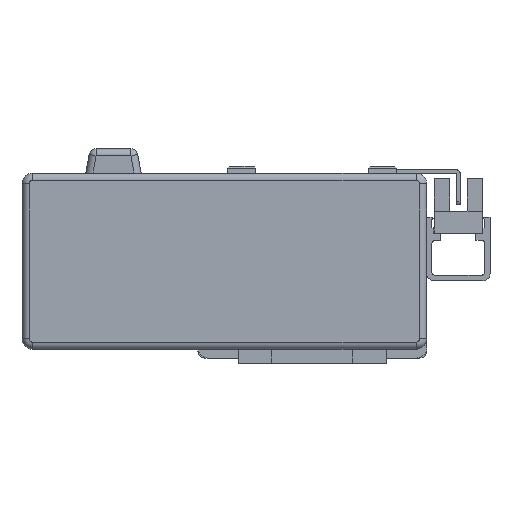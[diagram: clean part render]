
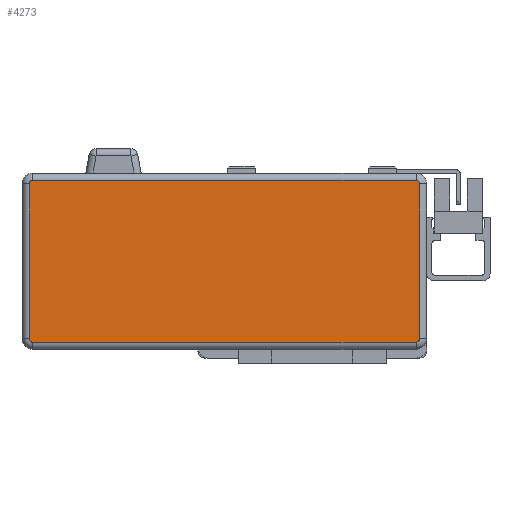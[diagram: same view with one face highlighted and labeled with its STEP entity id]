
A CAD part, left-side view. The second image highlights one B-rep face of the part: STEP entity #4273.
In plain terms, the highlighted planar face has unit normal (-1, 0, 0) as drawn and (0, 0, 1) by its records, which use the part's own axes.
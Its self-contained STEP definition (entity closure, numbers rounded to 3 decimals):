
#79 = CARTESIAN_POINT ( 'NONE',  ( -54.5, 23., 40. ) ) ;
#1797 = CIRCLE ( 'NONE', #18931, 1. ) ;
#1950 = CARTESIAN_POINT ( 'NONE',  ( -55.5, 0., 40. ) ) ;
#1984 = DIRECTION ( 'NONE',  ( 0., -1., 0. ) ) ;
#2029 = CIRCLE ( 'NONE', #19252, 1. ) ;
#2244 = CIRCLE ( 'NONE', #19668, 1. ) ;
#2335 = VECTOR ( 'NONE', #23268, 1000. ) ;
#2449 = LINE ( 'NONE', #23216, #2335 ) ;
#2615 = CARTESIAN_POINT ( 'NONE',  ( -54.5, -23., 40. ) ) ;
#2843 = DIRECTION ( 'NONE',  ( -1., 0., 0. ) ) ;
#2892 = LINE ( 'NONE', #1950, #2917 ) ;
#2917 = VECTOR ( 'NONE', #1984, 1000. ) ;
#2983 = VECTOR ( 'NONE', #2843, 1000. ) ;
#3010 = LINE ( 'NONE', #3258, #2983 ) ;
#3258 = CARTESIAN_POINT ( 'NONE',  ( 0., 23., 40. ) ) ;
#3277 = CIRCLE ( 'NONE', #18842, 1. ) ;
#3600 = VECTOR ( 'NONE', #6745, 1000. ) ;
#3734 = LINE ( 'NONE', #6806, #3600 ) ;
#4155 = DIRECTION ( 'NONE',  ( -1., 0., 0. ) ) ;
#4190 = DIRECTION ( 'NONE',  ( 0., 0., 1. ) ) ;
#4273 = ADVANCED_FACE ( 'NONE', ( #17831 ), #15384, .F. ) ;
#4342 = CARTESIAN_POINT ( 'NONE',  ( 54.5, -22., 40. ) ) ;
#4759 = VERTEX_POINT ( 'NONE', #10006 ) ;
#6511 = EDGE_LOOP ( 'NONE', ( #13971, #22290, #20927, #25899, #7936, #16104, #10673, #19063 ) ) ;
#6745 = DIRECTION ( 'NONE',  ( 0., 1., 0. ) ) ;
#6806 = CARTESIAN_POINT ( 'NONE',  ( 55.5, 0., 40. ) ) ;
#7777 = VERTEX_POINT ( 'NONE', #9873 ) ;
#7936 = ORIENTED_EDGE ( 'NONE', *, *, #23017, .T. ) ;
#8767 = CARTESIAN_POINT ( 'NONE',  ( -55.5, 22., 40. ) ) ;
#9873 = CARTESIAN_POINT ( 'NONE',  ( 54.5, -23., 40. ) ) ;
#10006 = CARTESIAN_POINT ( 'NONE',  ( 55.5, -22., 40. ) ) ;
#10231 = CARTESIAN_POINT ( 'NONE',  ( 55.5, 22., 40. ) ) ;
#10673 = ORIENTED_EDGE ( 'NONE', *, *, #23050, .T. ) ;
#11115 = DIRECTION ( 'NONE',  ( -1., 0., 0. ) ) ;
#11245 = DIRECTION ( 'NONE',  ( 0., 0., 1. ) ) ;
#11523 = CARTESIAN_POINT ( 'NONE',  ( -54.5, -22., 40. ) ) ;
#12873 = DIRECTION ( 'NONE',  ( -1., 0., 0. ) ) ;
#13028 = DIRECTION ( 'NONE',  ( 0., 0., 1. ) ) ;
#13062 = CARTESIAN_POINT ( 'NONE',  ( -54.5, 22., 40. ) ) ;
#13971 = ORIENTED_EDGE ( 'NONE', *, *, #23137, .T. ) ;
#15337 = DIRECTION ( 'NONE',  ( -1., 0., 0. ) ) ;
#15357 = DIRECTION ( 'NONE',  ( 0., 0., -1. ) ) ;
#15384 = PLANE ( 'NONE',  #24328 ) ;
#15809 = CARTESIAN_POINT ( 'NONE',  ( 0., 0., 40. ) ) ;
#16104 = ORIENTED_EDGE ( 'NONE', *, *, #23246, .T. ) ;
#17574 = CARTESIAN_POINT ( 'NONE',  ( -55.5, -22., 40. ) ) ;
#17831 = FACE_OUTER_BOUND ( 'NONE', #6511, .T. ) ;
#18842 = AXIS2_PLACEMENT_3D ( 'NONE', #4342, #4190, #4155 ) ;
#18931 = AXIS2_PLACEMENT_3D ( 'NONE', #11523, #11245, #11115 ) ;
#19063 = ORIENTED_EDGE ( 'NONE', *, *, #23280, .T. ) ;
#19252 = AXIS2_PLACEMENT_3D ( 'NONE', #13062, #13028, #12873 ) ;
#19525 = CARTESIAN_POINT ( 'NONE',  ( 54.5, 23., 40. ) ) ;
#19668 = AXIS2_PLACEMENT_3D ( 'NONE', #20437, #20378, #20018 ) ;
#20018 = DIRECTION ( 'NONE',  ( -1., 0., 0. ) ) ;
#20378 = DIRECTION ( 'NONE',  ( 0., 0., 1. ) ) ;
#20437 = CARTESIAN_POINT ( 'NONE',  ( 54.5, 22., 40. ) ) ;
#20754 = VERTEX_POINT ( 'NONE', #2615 ) ;
#20927 = ORIENTED_EDGE ( 'NONE', *, *, #22891, .T. ) ;
#21118 = VERTEX_POINT ( 'NONE', #17574 ) ;
#21453 = VERTEX_POINT ( 'NONE', #8767 ) ;
#21770 = VERTEX_POINT ( 'NONE', #79 ) ;
#21881 = VERTEX_POINT ( 'NONE', #19525 ) ;
#22003 = VERTEX_POINT ( 'NONE', #10231 ) ;
#22290 = ORIENTED_EDGE ( 'NONE', *, *, #22974, .T. ) ;
#22891 = EDGE_CURVE ( 'NONE', #4759, #22003, #3734, .T. ) ;
#22974 = EDGE_CURVE ( 'NONE', #7777, #4759, #3277, .T. ) ;
#23017 = EDGE_CURVE ( 'NONE', #21881, #21770, #3010, .T. ) ;
#23050 = EDGE_CURVE ( 'NONE', #21453, #21118, #2892, .T. ) ;
#23137 = EDGE_CURVE ( 'NONE', #20754, #7777, #2449, .T. ) ;
#23167 = EDGE_CURVE ( 'NONE', #22003, #21881, #2244, .T. ) ;
#23216 = CARTESIAN_POINT ( 'NONE',  ( 0., -23., 40. ) ) ;
#23246 = EDGE_CURVE ( 'NONE', #21770, #21453, #2029, .T. ) ;
#23268 = DIRECTION ( 'NONE',  ( 1., 0., 0. ) ) ;
#23280 = EDGE_CURVE ( 'NONE', #21118, #20754, #1797, .T. ) ;
#24328 = AXIS2_PLACEMENT_3D ( 'NONE', #15809, #15357, #15337 ) ;
#25899 = ORIENTED_EDGE ( 'NONE', *, *, #23167, .T. ) ;
